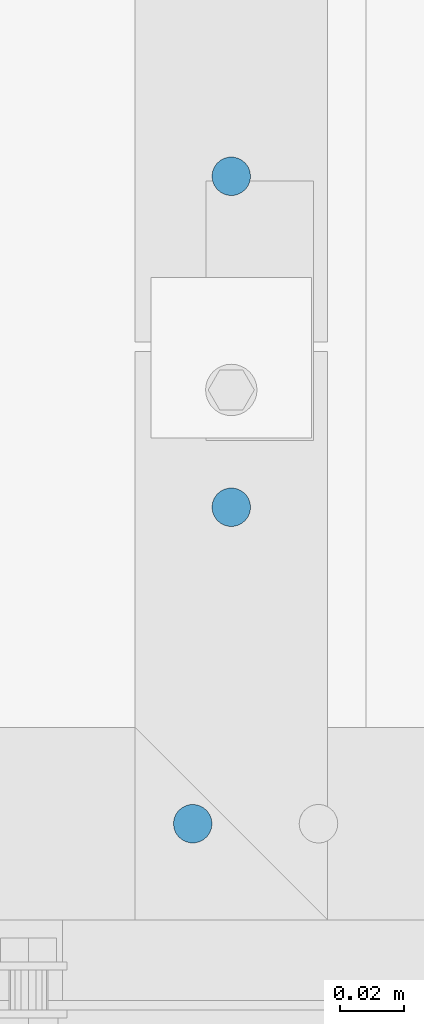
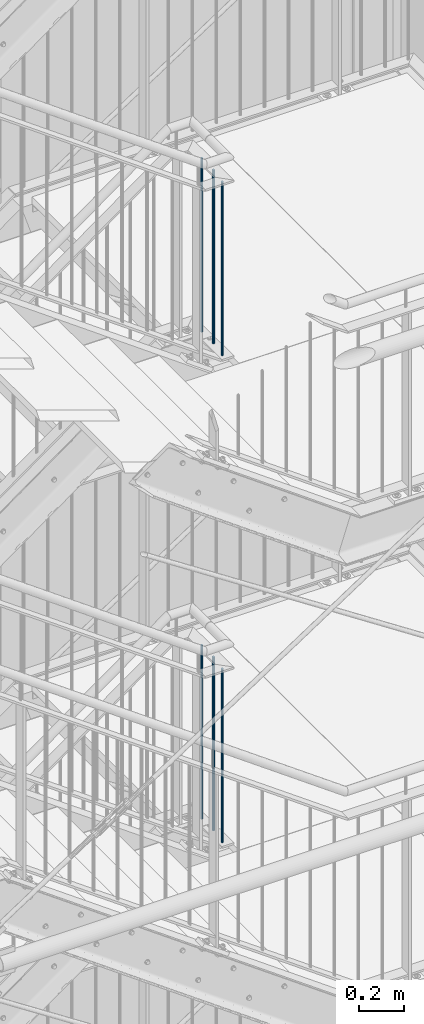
# One storey, part 51 of 825: 6 columns.
"""IFC2X3 building model written with IfcOpenShell, lengths in millimetres."""

import ifcopenshell
import ifcopenshell.guid

model = None  # the IFC model being written
_history = None  # IfcOwnerHistory: only IFC2X3 demands one
_inside = {}  # id of a spatial element -> (the spatial element, [elements in it])
_under = {}  # id of a project, library or spatial element -> (it, [spatial elements below it])
_declared = {}  # id of a project -> (the project, [libraries it declares])
_typed = {}  # id of a type object -> (the type object, [elements of that type])
_made_of = {}  # id of a material, layer set ... -> (it, [elements and type objects made of it])


def new_model(schema):
    """Start an empty IFC model of exactly this schema.

    Asked for "IFC4X3", IfcOpenShell would pick the latest addendum, in which some entities
    have other attributes; the version numbers below select the first issue.
    IFC2X3 requires an IfcOwnerHistory on every rooted entity: one is made here for all.
    """
    global model, _history
    if schema == "IFC4X3":
        model = ifcopenshell.file(schema_version=(4, 3, 0, 0))
    else:
        model = ifcopenshell.file(schema=schema)
    _inside.clear()
    _under.clear()
    _declared.clear()
    _typed.clear()
    _made_of.clear()
    _history = None
    if model.schema == "IFC2X3":
        org = make("IfcOrganization", Name="unknown")
        user = make(
            "IfcPersonAndOrganization",
            ThePerson=make("IfcPerson", FamilyName="unknown"),
            TheOrganization=org,
        )
        app = make(
            "IfcApplication",
            ApplicationDeveloper=org,
            Version="unknown",
            ApplicationFullName="unknown",
            ApplicationIdentifier="unknown",
        )
        _history = make(
            "IfcOwnerHistory",
            OwningUser=user,
            OwningApplication=app,
            ChangeAction="ADDED",
            CreationDate=0,
        )
    return model


def make(cls, **values):
    """One entity of the class cls with the attributes given. An attribute that is None is left unset."""
    return model.create_entity(
        cls, **{name: value for name, value in values.items() if value is not None}
    )


def entity(cls, *values):
    """Any entity or typed value of the class cls, its attributes in the order of the schema. None: left unset."""
    e = model.create_entity(cls)
    for i, value in enumerate(values):
        if value is not None:
            e[i] = value
    return e


def rooted(cls, **values):
    """An entity with a GlobalId (a new one), such as an element, a storey or a relation."""
    return make(cls, GlobalId=ifcopenshell.guid.new(), OwnerHistory=_history, **values)


def si_unit(unit_type, name, prefix=None):
    """IfcSIUnit, for example si_unit("LENGTHUNIT", "METRE", prefix="MILLI")."""
    return make("IfcSIUnit", UnitType=unit_type, Prefix=prefix, Name=name)


def converted_unit(unit_type, name, factor, base, dimensions=None, offset=None):
    """IfcConversionBasedUnit, such as the inch: factor (a typed value) times the base unit."""
    return make(
        "IfcConversionBasedUnit"
        if offset is None
        else "IfcConversionBasedUnitWithOffset",
        ConversionOffset=offset,
        Dimensions=None
        if dimensions is None
        else entity("IfcDimensionalExponents", *dimensions),
        UnitType=unit_type,
        Name=name,
        ConversionFactor=make(
            "IfcMeasureWithUnit", ValueComponent=factor, UnitComponent=base
        ),
    )


def assignment(units):
    """IfcUnitAssignment: the units of a project."""
    return None if units is None else make("IfcUnitAssignment", Units=units)


def point(xyz):
    """IfcCartesianPoint."""
    return None if xyz is None else make("IfcCartesianPoint", Coordinates=xyz)


def direction(xyz):
    """IfcDirection."""
    return None if xyz is None else make("IfcDirection", DirectionRatios=xyz)


def frame(location, z_axis=None, x_axis=None):
    """IfcAxis2Placement3D, a coordinate frame: its origin and axes. An axis left out is left unset."""
    return make(
        "IfcAxis2Placement3D",
        Location=point(location),
        Axis=direction(z_axis),
        RefDirection=direction(x_axis),
    )


def frame_2d(location, x_axis=None):
    """IfcAxis2Placement2D, a coordinate frame in the plane: its origin and x axis."""
    return make(
        "IfcAxis2Placement2D", Location=point(location), RefDirection=direction(x_axis)
    )


def origin():
    """The frame at (0, 0, 0) with its axes left unset."""
    return frame((0.0, 0.0, 0.0))


def origin_with_axes():
    """The frame at (0, 0, 0) with the z axis (0, 0, 1) and the x axis (1, 0, 0) written out."""
    return frame((0.0, 0.0, 0.0), z_axis=(0.0, 0.0, 1.0), x_axis=(1.0, 0.0, 0.0))


def origin_2d():
    """The frame at (0, 0) in the plane with its x axis left unset."""
    return frame_2d((0.0, 0.0))


def place(relative_to, where):
    """IfcLocalPlacement: puts the frame where relative to a parent placement (None: the world)."""
    return make(
        "IfcLocalPlacement", PlacementRelTo=relative_to, RelativePlacement=where
    )


def context(
    kind, dimensions, precision=None, world=None, true_north=None, identifier=None
):
    """IfcGeometricRepresentationContext, for example the 3D "Model" context."""
    return make(
        "IfcGeometricRepresentationContext",
        ContextIdentifier=identifier,
        ContextType=kind,
        CoordinateSpaceDimension=dimensions,
        Precision=precision,
        WorldCoordinateSystem=world,
        TrueNorth=true_north,
    )


def project(units=None, contexts=None):
    """IfcProject with its units and contexts."""
    return rooted(
        "IfcProject",
        Name="project",
        RepresentationContexts=contexts,
        UnitsInContext=assignment(units),
    )


def spatial(cls, under=None, at=None, **own):
    """A site, building, storey or space (cls), placed at a placement, below another one or the project."""
    s = rooted(cls, ObjectPlacement=at, **own)
    if under is not None:
        _under.setdefault(under.id(), (under, []))[1].append(s)
    return s


def profile(cls, at=None, kind="AREA", **sizes):
    """A parametric profile (cls). Its sizes go by their IFC names, for example OverallWidth=200.0."""
    return make(cls, ProfileType=kind, Position=at, **sizes)


def circle(**sizes):
    """IfcCircleProfileDef."""
    return profile("IfcCircleProfileDef", **sizes)


def extrude(swept, where, along, depth):
    """IfcExtrudedAreaSolid: the profile swept, set in the frame where, extruded along a direction by depth."""
    return make(
        "IfcExtrudedAreaSolid",
        SweptArea=swept,
        Position=where,
        ExtrudedDirection=direction(along),
        Depth=depth,
    )


def shape(context_of_items, identifier, shape_type, items):
    """IfcShapeRepresentation: the items that make up one representation, for example the "Body"."""
    return make(
        "IfcShapeRepresentation",
        ContextOfItems=context_of_items,
        RepresentationIdentifier=identifier,
        RepresentationType=shape_type,
        Items=items,
    )


def material(Name=None, Category=None):
    """IfcMaterial."""
    return make("IfcMaterial", Name=Name, Category=Category)


def made_of(thing, what):
    """Note that an element or type object is made of a material, layer set ...; save() writes the relation."""
    if what is not None:
        _made_of.setdefault(what.id(), (what, []))[1].append(thing)
    return thing


def element(
    cls,
    number,
    at=None,
    inside=None,
    cuts=None,
    type_object=None,
    material=None,
    context=None,
    identifier="Body",
    shape_type=None,
    held_by="IfcProductDefinitionShape",
    body=None,
    shapes=None,
    **own,
):
    """One element of the class cls, such as IfcWall. Its Tag is "e" and its number.

    at: its placement. inside: the storey or other place that contains it. cuts: it is an
    opening in that element (IfcRelVoidsElement). A single representation is given by context,
    identifier, shape_type and body (its items); several are given by shapes. held_by: the class
    of the entity that holds the representations. save() writes the other relations.
    """
    e = rooted(cls, Tag="e%d" % number, ObjectPlacement=at, **own)
    if body is not None:
        shapes = [shape(context, identifier, shape_type, body)]
    if shapes is not None:
        e.Representation = make(held_by, Representations=shapes)
    if inside is not None:
        _inside.setdefault(inside.id(), (inside, []))[1].append(e)
    if cuts is not None:
        rooted(
            "IfcRelVoidsElement", RelatingBuildingElement=cuts, RelatedOpeningElement=e
        )
    if type_object is not None:
        _typed.setdefault(type_object.id(), (type_object, []))[1].append(e)
    return made_of(e, material)


def aggregate(whole, parts):
    """IfcRelAggregates: a whole, such as a stair, and the parts it consists of."""
    return rooted("IfcRelAggregates", RelatingObject=whole, RelatedObjects=parts)


def save(model, path):
    """Write the relations noted so far, then the file.

    IfcRelAggregates (storeys below a building ...), IfcRelContainedInSpatialStructure (elements
    in a storey), IfcRelDefinesByType, IfcRelAssociatesMaterial and IfcRelDeclares: one each for
    every whole, place, type object, material and project.
    """
    for whole, parts in _under.values():
        aggregate(whole, parts)
    for where, things in _inside.values():
        rooted(
            "IfcRelContainedInSpatialStructure",
            RelatedElements=things,
            RelatingStructure=where,
        )
    for kind, things in _typed.values():
        rooted("IfcRelDefinesByType", RelatedObjects=things, RelatingType=kind)
    for what, things in _made_of.values():
        rooted("IfcRelAssociatesMaterial", RelatedObjects=things, RelatingMaterial=what)
    for by, libraries in _declared.values():
        rooted("IfcRelDeclares", RelatingContext=by, RelatedDefinitions=libraries)
    model.write(path)


model = new_model("IFC2X3")

# Units and contexts
model_context = context("Model", 3, precision=1e-09, world=origin_with_axes())
ifc_project = project(units=[si_unit("LENGTHUNIT", "METRE", prefix="MILLI"), si_unit("AREAUNIT", "SQUARE_METRE"), si_unit("VOLUMEUNIT", "CUBIC_METRE"), converted_unit("PLANEANGLEUNIT", "DEGREE", entity("IfcPlaneAngleMeasure", 0.01745329), si_unit("PLANEANGLEUNIT", "RADIAN"), dimensions=[0, 0, 0, 0, 0, 0, 0])], contexts=[model_context])

# Site, building, storey
site_placement = place(None, origin_with_axes())
site = spatial("IfcSite", under=ifc_project, at=site_placement, Name="Cnopf'sche Kinderklinik", CompositionType="ELEMENT")
building_placement = place(site_placement, origin_with_axes())
building = spatial("IfcBuilding", under=site, at=building_placement, Name="Struktur 1", CompositionType="ELEMENT")
storey_placement = place(building_placement, origin_with_axes())
storey = spatial("IfcBuildingStorey", under=building, at=storey_placement, Name="Default Storey", CompositionType="ELEMENT", Elevation=0.0)

# Columns
ifc_material = material(Name="S235JR")
for number, where, z_axis, x_axis, name in (
    (1, (7152.822212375, 5791.736971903, 14905.3000001), (0.0, 0.0, 1.0), (-1.0, 0.0, 0.0), "Railing_Picket_Stair#0"),
    (2, (7164.822212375, 5890.236971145, 14905.3000001), (0.0, 0.0, 1.0), (-1.0, 0.0, 0.0), "Railing_Picket_Stair#0"),
    (3, (7164.822212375, 5993.236971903, 14905.3000001), (0.0, 0.0, 1.0), (-1.0, 0.0, 0.0), "Railing_Picket_Stair#0"),
    (4, (7152.822212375, 5791.736971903, 12274.3000003), (0.0, 0.0, 1.0), (-1.0, 0.0, 0.0), "Railing_Picket_Stair#0"),
    (5, (7164.822212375, 5890.236971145, 12274.3000003), (0.0, 0.0, 1.0), (-1.0, 0.0, 0.0), "Railing_Picket_Stair#0"),
    (6, (7164.822212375, 5993.236971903, 12274.3000003), (0.0, 0.0, 1.0), (-1.0, 0.0, 0.0), "Railing_Picket_Stair#0"),
):
    element("IfcColumn", number, at=place(None, frame(where, z_axis=z_axis, x_axis=x_axis)), inside=storey, material=ifc_material, Name=name, ObjectType="Railing_Picket_Stair#0", context=model_context, shape_type="SweptSolid", body=[
        extrude(circle(Radius=6.0, at=origin_2d()), origin(), (0.0, 0.0, -1.0), 938.8),
    ])

save(model, "model.ifc")
